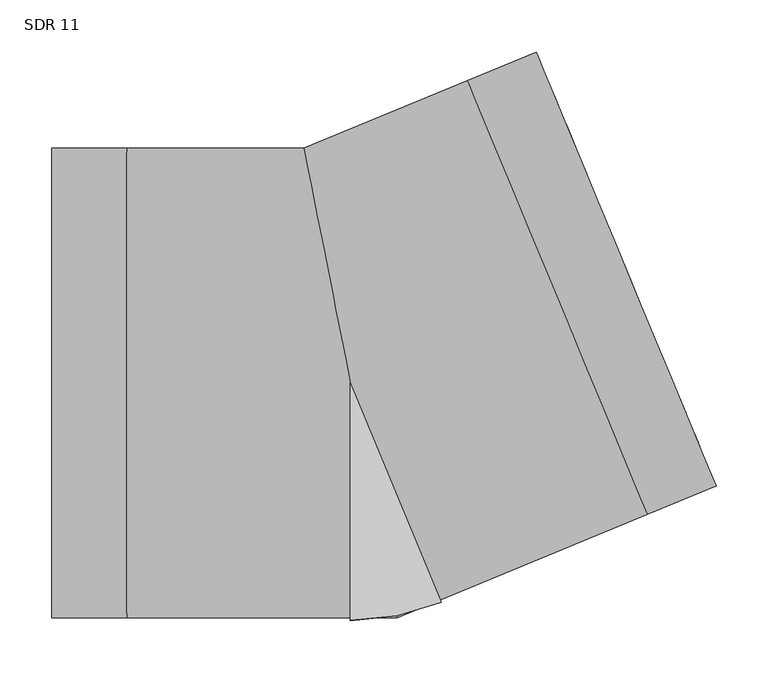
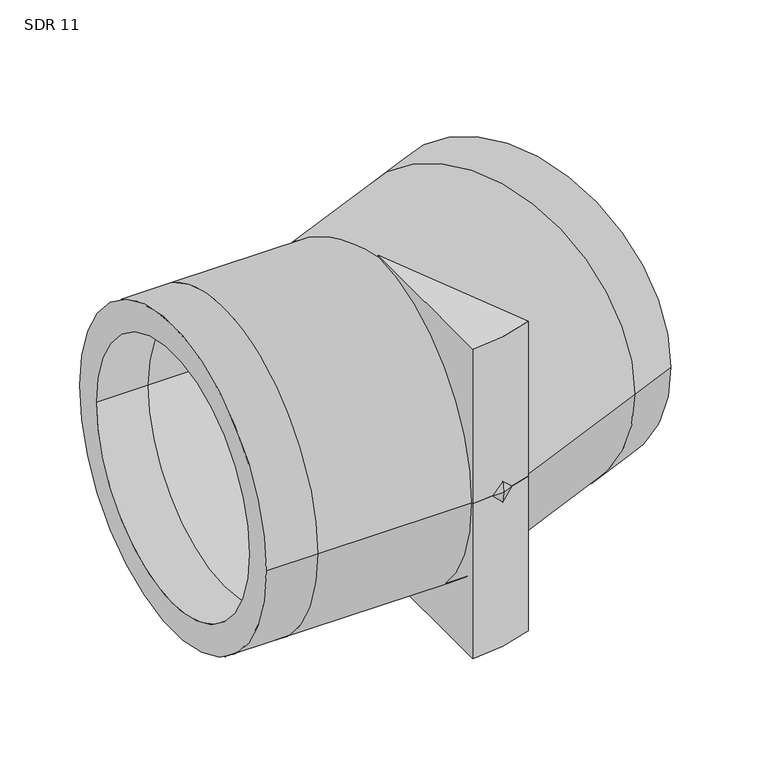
"""IFC4 building model written with IfcOpenShell, lengths in millimetres: pipe fitting geometry, Aquatherm - Elbow Blue BW Segmented : SDR 11."""

import ifcopenshell
import ifcopenshell.guid

model = None  # the IFC model being written
_history = None  # IfcOwnerHistory: only IFC2X3 demands one
_inside = {}  # id of a spatial element -> (the spatial element, [elements in it])
_under = {}  # id of a project, library or spatial element -> (it, [spatial elements below it])
_declared = {}  # id of a project -> (the project, [libraries it declares])
_typed = {}  # id of a type object -> (the type object, [elements of that type])
_made_of = {}  # id of a material, layer set ... -> (it, [elements and type objects made of it])


def new_model(schema):
    """Start an empty IFC model of exactly this schema.

    Asked for "IFC4X3", IfcOpenShell would pick the latest addendum, in which some entities
    have other attributes; the version numbers below select the first issue.
    IFC2X3 requires an IfcOwnerHistory on every rooted entity: one is made here for all.
    """
    global model, _history
    if schema == "IFC4X3":
        model = ifcopenshell.file(schema_version=(4, 3, 0, 0))
    else:
        model = ifcopenshell.file(schema=schema)
    _inside.clear()
    _under.clear()
    _declared.clear()
    _typed.clear()
    _made_of.clear()
    _history = None
    if model.schema == "IFC2X3":
        org = make("IfcOrganization", Name="unknown")
        user = make(
            "IfcPersonAndOrganization",
            ThePerson=make("IfcPerson", FamilyName="unknown"),
            TheOrganization=org,
        )
        app = make(
            "IfcApplication",
            ApplicationDeveloper=org,
            Version="unknown",
            ApplicationFullName="unknown",
            ApplicationIdentifier="unknown",
        )
        _history = make(
            "IfcOwnerHistory",
            OwningUser=user,
            OwningApplication=app,
            ChangeAction="ADDED",
            CreationDate=0,
        )
    return model


def make(cls, **values):
    """One entity of the class cls with the attributes given. An attribute that is None is left unset."""
    return model.create_entity(
        cls, **{name: value for name, value in values.items() if value is not None}
    )


def rooted(cls, **values):
    """An entity with a GlobalId (a new one), such as an element, a storey or a relation."""
    return make(cls, GlobalId=ifcopenshell.guid.new(), OwnerHistory=_history, **values)


def si_unit(unit_type, name, prefix=None):
    """IfcSIUnit, for example si_unit("LENGTHUNIT", "METRE", prefix="MILLI")."""
    return make("IfcSIUnit", UnitType=unit_type, Prefix=prefix, Name=name)


def assignment(units):
    """IfcUnitAssignment: the units of a project."""
    return None if units is None else make("IfcUnitAssignment", Units=units)


def point(xyz):
    """IfcCartesianPoint."""
    return None if xyz is None else make("IfcCartesianPoint", Coordinates=xyz)


def direction(xyz):
    """IfcDirection."""
    return None if xyz is None else make("IfcDirection", DirectionRatios=xyz)


def frame(location, z_axis=None, x_axis=None):
    """IfcAxis2Placement3D, a coordinate frame: its origin and axes. An axis left out is left unset."""
    return make(
        "IfcAxis2Placement3D",
        Location=point(location),
        Axis=direction(z_axis),
        RefDirection=direction(x_axis),
    )


def frame_2d(location, x_axis=None):
    """IfcAxis2Placement2D, a coordinate frame in the plane: its origin and x axis."""
    return make(
        "IfcAxis2Placement2D", Location=point(location), RefDirection=direction(x_axis)
    )


def origin():
    """The frame at (0, 0, 0) with its axes left unset."""
    return frame((0.0, 0.0, 0.0))


def origin_with_axes():
    """The frame at (0, 0, 0) with the z axis (0, 0, 1) and the x axis (1, 0, 0) written out."""
    return frame((0.0, 0.0, 0.0), z_axis=(0.0, 0.0, 1.0), x_axis=(1.0, 0.0, 0.0))


def origin_2d():
    """The frame at (0, 0) in the plane with its x axis left unset."""
    return frame_2d((0.0, 0.0))


def place(relative_to, where):
    """IfcLocalPlacement: puts the frame where relative to a parent placement (None: the world)."""
    return make(
        "IfcLocalPlacement", PlacementRelTo=relative_to, RelativePlacement=where
    )


def context(
    kind, dimensions, precision=None, world=None, true_north=None, identifier=None
):
    """IfcGeometricRepresentationContext, for example the 3D "Model" context."""
    return make(
        "IfcGeometricRepresentationContext",
        ContextIdentifier=identifier,
        ContextType=kind,
        CoordinateSpaceDimension=dimensions,
        Precision=precision,
        WorldCoordinateSystem=world,
        TrueNorth=true_north,
    )


def project(units=None, contexts=None):
    """IfcProject with its units and contexts."""
    return rooted(
        "IfcProject",
        Name="project",
        RepresentationContexts=contexts,
        UnitsInContext=assignment(units),
    )


def spatial(cls, under=None, at=None, **own):
    """A site, building, storey or space (cls), placed at a placement, below another one or the project."""
    s = rooted(cls, ObjectPlacement=at, **own)
    if under is not None:
        _under.setdefault(under.id(), (under, []))[1].append(s)
    return s


def polyline(points):
    """IfcPolyline through the points."""
    return make("IfcPolyline", Points=[point(p) for p in points])


def circle_curve(where, radius):
    """IfcCircle in the frame where."""
    return make("IfcCircle", Position=where, Radius=radius)


def ellipse_curve(where, semi_axis1, semi_axis2):
    """IfcEllipse in the frame where."""
    return make(
        "IfcEllipse", Position=where, SemiAxis1=semi_axis1, SemiAxis2=semi_axis2
    )


def trimmed(basis, trim1, trim2, sense, master):
    """IfcTrimmedCurve: the piece of a basis curve between two trims."""
    return make(
        "IfcTrimmedCurve",
        BasisCurve=basis,
        Trim1=trim1,
        Trim2=trim2,
        SenseAgreement=sense,
        MasterRepresentation=master,
    )


def segment(curve, same_sense, transition):
    """IfcCompositeCurveSegment."""
    return make(
        "IfcCompositeCurveSegment",
        Transition=transition,
        SameSense=same_sense,
        ParentCurve=curve,
    )


def composite_curve(segments, self_intersect=None):
    """IfcCompositeCurve: segments joined end to end."""
    return make("IfcCompositeCurve", Segments=segments, SelfIntersect=self_intersect)


def outline(outer, holes=None, kind="AREA"):
    """IfcArbitraryClosedProfileDef: a profile drawn as a closed curve; with holes, ...WithVoids."""
    if holes is None:
        return make("IfcArbitraryClosedProfileDef", ProfileType=kind, OuterCurve=outer)
    return make(
        "IfcArbitraryProfileDefWithVoids",
        ProfileType=kind,
        OuterCurve=outer,
        InnerCurves=holes,
    )


def extrude(swept, where, along, depth):
    """IfcExtrudedAreaSolid: the profile swept, set in the frame where, extruded along a direction by depth."""
    return make(
        "IfcExtrudedAreaSolid",
        SweptArea=swept,
        Position=where,
        ExtrudedDirection=direction(along),
        Depth=depth,
    )


def shape(context_of_items, identifier, shape_type, items):
    """IfcShapeRepresentation: the items that make up one representation, for example the "Body"."""
    return make(
        "IfcShapeRepresentation",
        ContextOfItems=context_of_items,
        RepresentationIdentifier=identifier,
        RepresentationType=shape_type,
        Items=items,
    )


def source(mapping_origin, context_of_items, identifier, shape_type, items):
    """IfcRepresentationMap: a shape defined once, which mapped items show again and again."""
    return make(
        "IfcRepresentationMap",
        MappingOrigin=mapping_origin,
        MappedRepresentation=shape(context_of_items, identifier, shape_type, items),
    )


def transform(
    local_origin,
    x_axis=None,
    y_axis=None,
    z_axis=None,
    scale=None,
    scale2=None,
    scale3=None,
    uniform=True,
):
    """IfcCartesianTransformationOperator3D, or its non-uniform kind. x_axis, y_axis, z_axis: its Axis1, 2, 3."""
    if uniform:
        return make(
            "IfcCartesianTransformationOperator3D",
            Axis1=direction(x_axis),
            Axis2=direction(y_axis),
            LocalOrigin=point(local_origin),
            Scale=scale,
            Axis3=direction(z_axis),
        )
    return make(
        "IfcCartesianTransformationOperator3DnonUniform",
        Axis1=direction(x_axis),
        Axis2=direction(y_axis),
        LocalOrigin=point(local_origin),
        Scale=scale,
        Axis3=direction(z_axis),
        Scale2=scale2,
        Scale3=scale3,
    )


def mapped(mapping_source, mapping_target):
    """IfcMappedItem: shows the shape of a source again, moved by a transform."""
    return make(
        "IfcMappedItem", MappingSource=mapping_source, MappingTarget=mapping_target
    )


def made_of(thing, what):
    """Note that an element or type object is made of a material, layer set ...; save() writes the relation."""
    if what is not None:
        _made_of.setdefault(what.id(), (what, []))[1].append(thing)
    return thing


def element(
    cls,
    number,
    at=None,
    inside=None,
    cuts=None,
    type_object=None,
    material=None,
    context=None,
    identifier="Body",
    shape_type=None,
    held_by="IfcProductDefinitionShape",
    body=None,
    shapes=None,
    **own,
):
    """One element of the class cls, such as IfcWall. Its Tag is "e" and its number.

    at: its placement. inside: the storey or other place that contains it. cuts: it is an
    opening in that element (IfcRelVoidsElement). A single representation is given by context,
    identifier, shape_type and body (its items); several are given by shapes. held_by: the class
    of the entity that holds the representations. save() writes the other relations.
    """
    e = rooted(cls, Tag="e%d" % number, ObjectPlacement=at, **own)
    if body is not None:
        shapes = [shape(context, identifier, shape_type, body)]
    if shapes is not None:
        e.Representation = make(held_by, Representations=shapes)
    if inside is not None:
        _inside.setdefault(inside.id(), (inside, []))[1].append(e)
    if cuts is not None:
        rooted(
            "IfcRelVoidsElement", RelatingBuildingElement=cuts, RelatedOpeningElement=e
        )
    if type_object is not None:
        _typed.setdefault(type_object.id(), (type_object, []))[1].append(e)
    return made_of(e, material)


def aggregate(whole, parts):
    """IfcRelAggregates: a whole, such as a stair, and the parts it consists of."""
    return rooted("IfcRelAggregates", RelatingObject=whole, RelatedObjects=parts)


def save(model, path):
    """Write the relations noted so far, then the file.

    IfcRelAggregates (storeys below a building ...), IfcRelContainedInSpatialStructure (elements
    in a storey), IfcRelDefinesByType, IfcRelAssociatesMaterial and IfcRelDeclares: one each for
    every whole, place, type object, material and project.
    """
    for whole, parts in _under.values():
        aggregate(whole, parts)
    for where, things in _inside.values():
        rooted(
            "IfcRelContainedInSpatialStructure",
            RelatedElements=things,
            RelatingStructure=where,
        )
    for kind, things in _typed.values():
        rooted("IfcRelDefinesByType", RelatedObjects=things, RelatingType=kind)
    for what, things in _made_of.values():
        rooted("IfcRelAssociatesMaterial", RelatedObjects=things, RelatingMaterial=what)
    for by, libraries in _declared.values():
        rooted("IfcRelDeclares", RelatingContext=by, RelatedDefinitions=libraries)
    model.write(path)


def plane_surface(at):
    """IfcPlane: the flat surface through the origin of the frame at, square to its z axis."""
    return make("IfcPlane", Position=at)


def cylinder_surface(at, radius):
    """IfcCylindricalSurface: all points at the distance radius from the z axis of the frame at."""
    return make("IfcCylindricalSurface", Position=at, Radius=radius)


def revolved_surface(curve, axis_point, axis_direction):
    """IfcSurfaceOfRevolution: the curve turned about the line through axis_point along axis_direction."""
    return make(
        "IfcSurfaceOfRevolution",
        SweptCurve=make("IfcArbitraryOpenProfileDef", ProfileType="CURVE", Curve=curve),
        AxisPosition=make("IfcAxis1Placement", Location=point(axis_point), Axis=direction(axis_direction)),
    )


def advanced_brep(points, edges, surfaces, faces):
    """IfcAdvancedBrep: a solid bounded by faces that lie on surfaces and meet in shared edges.

    An edge is (start, end): straight between two places in points (the first is 0);
    or (start, end, curve); or (start, end, curve, False) where it runs against its curve.
    A face is (place in surfaces, loops), or (place, loops, False) where it looks against
    its surface's normal. A loop lists edges by number (the first is 1), with a minus sign
    where the edge is run from its end to its start. The first loop is the outer one.
    """
    corners = [point(p) for p in points]
    vertices = [make("IfcVertexPoint", VertexGeometry=c) for c in corners]
    made = []
    for start, end, *more in edges:
        made.append(
            make(
                "IfcEdgeCurve",
                EdgeStart=vertices[start],
                EdgeEnd=vertices[end],
                EdgeGeometry=more[0] if more else make("IfcPolyline", Points=[corners[start], corners[end]]),
                SameSense=more[1] if len(more) > 1 else True,
            )
        )
    hull = []
    for where, loops, *sense in faces:
        bounds = []
        for j, loop in enumerate(loops):
            ring = [make("IfcOrientedEdge", EdgeElement=made[abs(k) - 1], Orientation=k > 0) for k in loop]
            bounds.append(
                make(
                    "IfcFaceOuterBound" if j == 0 else "IfcFaceBound",
                    Bound=make("IfcEdgeLoop", EdgeList=ring),
                    Orientation=True,
                )
            )
        hull.append(make("IfcAdvancedFace", Bounds=bounds, FaceSurface=surfaces[where], SameSense=sense[0] if sense else True))
    return make("IfcAdvancedBrep", Outer=make("IfcClosedShell", CfsFaces=hull))


def sdr_11_a55c8b2b(model_context):
    return source(origin(), model_context, "Body", "SolidModel", [
        extrude(outline(composite_curve([segment(polyline([(0.0, -228.6), (0.0, 0.0), (87.4814326, -211.1988611)]), True, "CONTINUOUS"), segment(trimmed(circle_curve(origin_2d(), 228.6), [point((87.4814326, -211.1988611))], [point((0.0, -228.6))], False, "CARTESIAN"), True, "CONTINUOUS")], self_intersect=False)), frame((0.0, 0.0, -228.6), z_axis=(0.0, 0.0, 1.0), x_axis=(1.0, 0.0, 0.0)), (0.0, 0.0, 1.0), 228.6),
        extrude(outline(composite_curve([segment(trimmed(circle_curve(origin_2d(), 228.6), [point((87.4814326, -211.1988611))], [point((0.0, -228.6))], False, "CARTESIAN"), True, "CONTINUOUS"), segment(polyline([(0.0, -228.6), (0.0, 0.0), (87.4814326, -211.1988611)]), True, "CONTINUOUS")], self_intersect=False)), origin_with_axes(), (0.0, 0.0, 1.0), 228.6),
        advanced_brep(
        [(-287.02, -226.06, 0.0), (-287.02, 226.06, 0.0), (-287.02, -184.9581818, 0.0), (-287.02, 184.9581818, 0.0), (351.6813201, -99.0144084, 0.0), (178.6624867, 318.6900059, 0.0), (335.9523353, -61.0412798, 0.0), (194.3914716, 280.7168773, 0.0), (-215.265, -226.06, 0.0), (-215.265, 226.06, 0.0), (-215.265, -184.9581818, 0.0), (-215.265, 184.9581818, 0.0), (44.9661298, -226.06, 0.0), (-44.9661298, 226.06, 0.0), (36.7904698, -184.9581818, 0.0), (-36.7904698, 184.9581818, 0.0), (285.3883443, -126.4738581, 0.0), (112.3695108, 291.2305562, 0.0), (269.6593594, -88.5007295, 0.0), (128.0984957, 253.2574276, 0.0)],
        [
            (0, 1, circle_curve(frame((-287.02, 0.0, 0.0), z_axis=(-1.0, 0.0, 0.0), x_axis=(0.0, 1.0, 0.0)), 226.06)),
            (1, 0, circle_curve(frame((-287.02, 0.0, 0.0), z_axis=(-1.0, 0.0, 0.0), x_axis=(0.0, 1.0, 0.0)), 226.06)),
            (2, 3, circle_curve(frame((-287.02, 0.0, 0.0), z_axis=(1.0, 0.0, 0.0), x_axis=(0.0, 1.0, 0.0)), 184.9581818)),
            (3, 2, circle_curve(frame((-287.02, 0.0, 0.0), z_axis=(1.0, 0.0, 0.0), x_axis=(0.0, 1.0, 0.0)), 184.9581818)),
            (4, 5, circle_curve(frame((265.1719034, 109.8377988, 0.0), z_axis=(0.923879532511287, 0.3826834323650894, 0.0), x_axis=(-0.3826834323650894, 0.923879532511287, 0.0)), 226.06)),
            (5, 4, circle_curve(frame((265.1719034, 109.8377988, 0.0), z_axis=(0.923879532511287, 0.3826834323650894, 0.0), x_axis=(-0.3826834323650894, 0.923879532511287, 0.0)), 226.06)),
            (6, 7, circle_curve(frame((265.1719034, 109.8377988, 0.0), z_axis=(-0.923879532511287, -0.3826834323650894, 0.0), x_axis=(-0.3826834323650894, 0.923879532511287, 0.0)), 184.9581818)),
            (7, 6, circle_curve(frame((265.1719034, 109.8377988, 0.0), z_axis=(-0.923879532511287, -0.3826834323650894, 0.0), x_axis=(-0.3826834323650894, 0.923879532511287, 0.0)), 184.9581818)),
            (0, 8),
            (8, 9, circle_curve(frame((-215.265, 0.0, 0.0), z_axis=(-1.0, 0.0, 0.0), x_axis=(0.0, 1.0, 0.0)), 226.06)),
            (9, 1),
            (9, 8, circle_curve(frame((-215.265, 0.0, 0.0), z_axis=(-1.0, 0.0, 0.0), x_axis=(0.0, 1.0, 0.0)), 226.06)),
            (2, 10),
            (10, 11, circle_curve(frame((-215.265, 0.0, 0.0), z_axis=(1.0, 0.0, 0.0), x_axis=(0.0, 1.0, 0.0)), 184.9581818)),
            (11, 3),
            (11, 10, circle_curve(frame((-215.265, 0.0, 0.0), z_axis=(1.0, 0.0, 0.0), x_axis=(0.0, 1.0, 0.0)), 184.9581818)),
            (8, 12),
            (12, 13, ellipse_curve(frame((0.0, 0.0, 0.0), z_axis=(-0.9807852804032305, -0.1950903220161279, 0.0), x_axis=(-0.19509032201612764, 0.9807852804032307, 0.0)), 230.4887772, 226.06)),
            (13, 9),
            (13, 12, ellipse_curve(frame((0.0, 0.0, 0.0), z_axis=(-0.9807852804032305, -0.1950903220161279, 0.0), x_axis=(-0.19509032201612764, 0.9807852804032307, 0.0)), 230.4887772, 226.06)),
            (10, 14),
            (14, 15, ellipse_curve(frame((0.0, 0.0, 0.0), z_axis=(0.9807852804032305, 0.1950903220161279, 0.0), x_axis=(0.19509032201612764, -0.9807852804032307, 0.0)), 188.5817268, 184.9581818)),
            (15, 11),
            (15, 14, ellipse_curve(frame((0.0, 0.0, 0.0), z_axis=(0.9807852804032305, 0.1950903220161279, 0.0), x_axis=(0.19509032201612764, -0.9807852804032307, 0.0)), 188.5817268, 184.9581818)),
            (12, 16),
            (16, 17, circle_curve(frame((198.8789276, 82.3783491, 0.0), z_axis=(-0.9238795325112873, -0.3826834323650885, 0.0), x_axis=(-0.3826834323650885, 0.9238795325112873, 0.0)), 226.06)),
            (17, 13),
            (17, 16, circle_curve(frame((198.8789276, 82.3783491, 0.0), z_axis=(-0.9238795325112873, -0.3826834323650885, 0.0), x_axis=(-0.3826834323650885, 0.9238795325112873, 0.0)), 226.06)),
            (14, 18),
            (18, 19, circle_curve(frame((198.8789276, 82.3783491, 0.0), z_axis=(0.9238795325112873, 0.3826834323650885, 0.0), x_axis=(-0.3826834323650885, 0.9238795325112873, 0.0)), 184.9581818)),
            (19, 15),
            (19, 18, circle_curve(frame((198.8789276, 82.3783491, 0.0), z_axis=(0.9238795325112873, 0.3826834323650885, 0.0), x_axis=(-0.3826834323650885, 0.9238795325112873, 0.0)), 184.9581818)),
            (16, 4),
            (5, 17),
            (18, 6),
            (7, 19),
        ],
        [
            plane_surface(frame((-287.02, 0.0, 0.0), z_axis=(-1.0, 0.0, 0.0), x_axis=(0.0, 0.0, 1.0))),
            plane_surface(frame((265.1719034, 109.8377988, 0.0), z_axis=(0.923879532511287, 0.3826834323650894, 0.0), x_axis=(0.0, 0.0, 1.0))),
            cylinder_surface(frame((-287.02, 0.0, 0.0), z_axis=(-1.0, 0.0, 0.0), x_axis=(0.0, 1.0, 0.0)), 226.06),
            revolved_surface(polyline([(-215.265, 184.9581818, 0.0), (-287.02, 184.9581818, 0.0)]), (-287.02, 0.0, 0.0), (1.0, 0.0, 0.0)),
            cylinder_surface(frame((-215.265, 0.0, 0.0), z_axis=(-1.0, 0.0, 0.0), x_axis=(0.0, 1.0, 0.0)), 226.06),
            revolved_surface(polyline([(36.7904698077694, 184.9581818, 0.0), (-215.265, 184.9581818, 0.0)]), (-215.265, 0.0, 0.0), (1.0, 0.0, 0.0)),
            cylinder_surface(frame((0.0, 0.0, 0.0), z_axis=(-0.9238795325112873, -0.3826834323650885, 0.0), x_axis=(-0.3826834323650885, 0.9238795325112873, 0.0)), 226.06),
            revolved_surface(polyline([(128.09849575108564, 253.25742762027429, 0.0), (-104.77039390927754, 156.79997526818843, 0.0)]), (0.0, 0.0, 0.0), (0.9238795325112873, 0.3826834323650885, 0.0)),
            cylinder_surface(frame((198.8789276, 82.3783491, 0.0), z_axis=(-0.923879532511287, -0.3826834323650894, 0.0), x_axis=(-0.3826834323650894, 0.923879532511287, 0.0)), 226.06),
            revolved_surface(polyline([(194.39147159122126, 280.7168773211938, 0.0), (128.09849567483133, 253.2574276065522, 0.0)]), (198.8789276, 82.3783491, 0.0), (0.923879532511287, 0.3826834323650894, 0.0)),
        ],
        [
            (0, [[1, 2], [3, 4]]),
            (1, [[5, 6], [7, 8]]),
            (2, [[-1, 9, 10, 11]]),
            (2, [[-2, -11, 12, -9]]),
            (3, [[-3, 13, 14, 15]]),
            (3, [[-4, -15, 16, -13]]),
            (4, [[-10, 17, 18, 19]]),
            (4, [[-12, -19, 20, -17]]),
            (5, [[-14, 21, 22, 23]]),
            (5, [[-16, -23, 24, -21]]),
            (6, [[-18, 25, 26, 27]]),
            (6, [[-20, -27, 28, -25]]),
            (7, [[-22, 29, 30, 31]]),
            (7, [[-24, -31, 32, -29]]),
            (8, [[-26, 33, -6, 34]]),
            (8, [[-28, -34, -5, -33]]),
            (9, [[-30, 35, -8, 36]]),
            (9, [[-32, -36, -7, -35]]),
        ],
    ),
    ])


if __name__ == "__main__":
    model = new_model("IFC4")
    model_context = context("Model", 3, world=origin())
    ifc_project = project(units=[si_unit("LENGTHUNIT", "METRE", prefix="MILLI")], contexts=[model_context])
    site = spatial("IfcSite", under=ifc_project)
    building = spatial("IfcBuilding", under=site)
    placement = place(None, origin())
    sdr_11_shape = sdr_11_a55c8b2b(model_context)
    element("IfcPipeFitting", 1, ObjectType="Aquatherm - Elbow Blue BW Segmented : SDR 11", at=placement, inside=building, context=model_context, shape_type="MappedRepresentation", body=[
        mapped(sdr_11_shape, transform((0.0, 0.0, 0.0), x_axis=(1.0, 0.0, 0.0), y_axis=(0.0, 1.0, 0.0), z_axis=(0.0, 0.0, 1.0))),
    ])
    save(model, "model.ifc")
